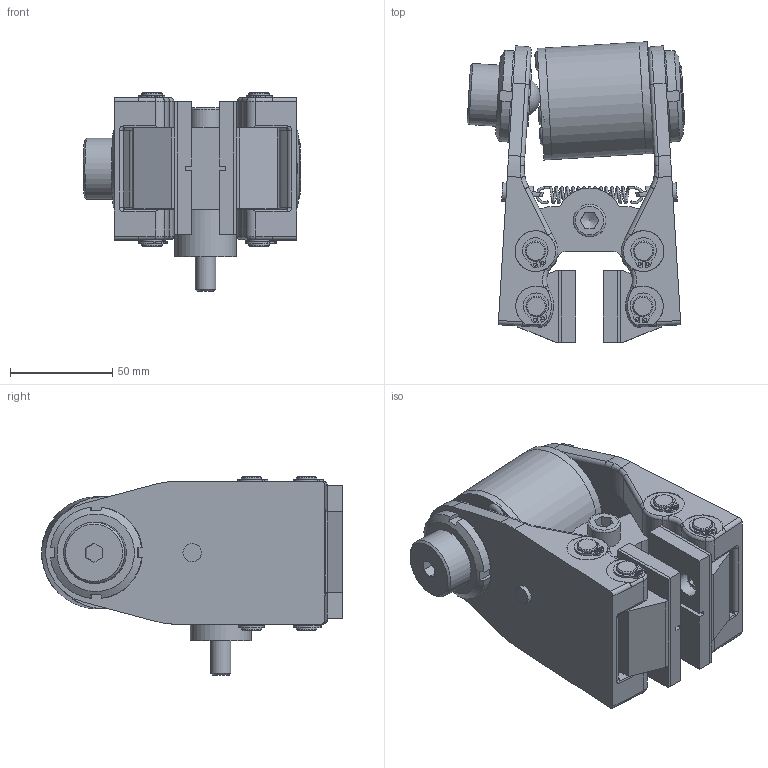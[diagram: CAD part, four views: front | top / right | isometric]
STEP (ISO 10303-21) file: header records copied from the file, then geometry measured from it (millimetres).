
FILE_DESCRIPTION(/* description */ ('','CAx-IF Rec.Pracs.---Representation and Presentation of Product Manufacturing Information (PMI)---4.0---2014-10-13'),/* implementation_level */ '2;1');
FILE_NAME(/* name */ 'X:\INVENTOR\DISEGNI\19_Pinze\STEP x Sito\PNEUM-NEGATIVE\19_36_001_03 PPB-N001_12,7.stp',/* time_stamp */ '2018-02-20T12:23:09+01:00',/* author */ ('stefano'),/* organization */ (''),/* preprocessor_version */ 'ST-DEVELOPER v17',/* originating_system */ 'Autodesk Inventor 2018',/* authorisation */ '');
FILE_SCHEMA (('AP242_MANAGED_MODEL_BASED_3D_ENGINEERING_MIM_LF { 1 0 10303 442 1 1 4 }'));
Length unit declared in the file: millimetre
Products named in the file (1): 19_36_001_03 PPB-N001_12,7_Substitute_1
Bounding box: 106.77 x 147.33 x 97.25 mm (x, y, z)
Volume: 482238.8 mm3; surface area: 111924.9 mm2
Topology: 4 solids, 4 shells, 674 faces, 1862 edges, 1220 vertices
Faces by surface type: plane 325, cylinder 224, torus 68, cone 37, bspline 17, sphere 3
Full cylindrical faces by diameter (mm): 1.2 x2, 1.5 x16, 2.5 x2, 4.25 x2, 4.5 x2, 4.917 x1, 6 x3, 6.25 x3, 6.5 x1, 7.4 x2, 7.5 x2, 7.75 x3, 9 x2, 9.5 x8, 10 x19, 10.1 x1, 10.5 x7, 11.445 x1, 12 x4, 15 x1, 16 x1, 30 x3, 35 x1, 55 x3
Entity records: 25015 total; most frequent: CARTESIAN_POINT 7045, DIRECTION 3801, ORIENTED_EDGE 3674, EDGE_CURVE 1837, AXIS2_PLACEMENT_3D 1476, VERTEX_POINT 1220, LINE 849, VECTOR 849
